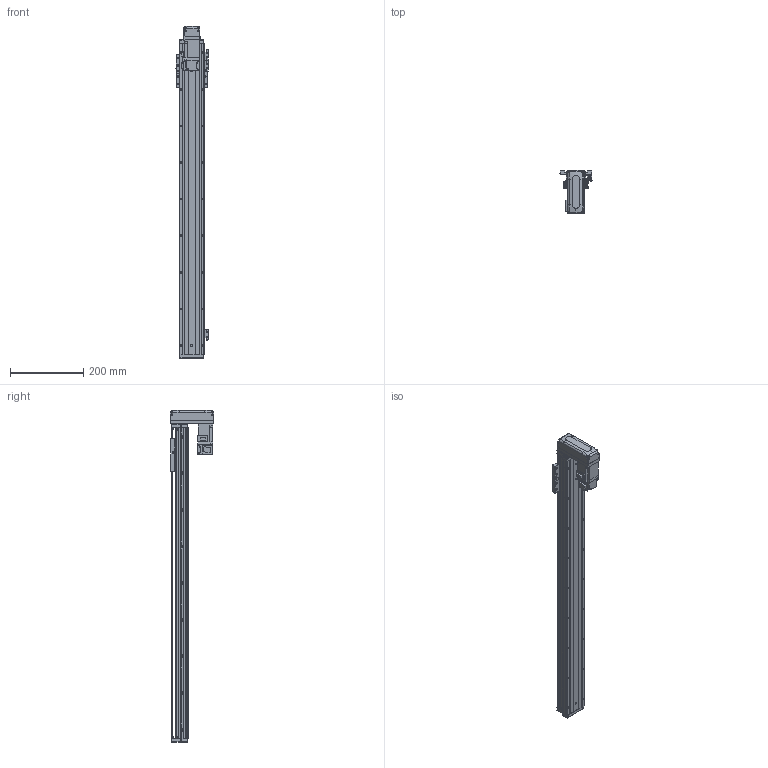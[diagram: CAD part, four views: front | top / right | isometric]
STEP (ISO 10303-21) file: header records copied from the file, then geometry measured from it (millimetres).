
FILE_DESCRIPTION (( 'STEP AP203' ), '1' );
FILE_NAME ('KTHAL60-700-BM-M10-C4L.step', '2022-03-19T08:42:05', ( '微软用户' ), ( '微软中国' ), 'SwSTEP 2.0', 'SolidWorks 2020', '' );
FILE_SCHEMA (( 'CONFIG_CONTROL_DESIGN' ));
Length unit declared in the file: millimetre
Products named in the file (18): GBT 70.3-M3℅6; CTHA60-016; EE_SX911P_R; HG-KR13（三菱）; KTHA60-001_850; CTHA60-017; CTHA60-015-2_CTHA60-015-2; KTHLA60-002; CTHA60-021; CTHA60-033; KTHA60-004; GBT 70.1-M4×16; GBT 70.1-M3×15; KTHA60-005; GBT77-2000M3-3; KTHAL60-700-BM-M10-C4L; GB¨uT 70.2-M3¡Á5_M3¡Á6; GBT 70.1-M3℅6
Assembly tree (51 placements, depth 2):
  KTHAL60-700-BM-M10-C4L
    KTHA60-001_850
    KTHLA60-002
    KTHA60-004
    KTHA60-005
    GB¨uT 70.2-M3¡Á5_M3¡Á6  x5
    GBT 70.3-M3℅6  x4
    EE_SX911P_R  x3
    CTHA60-017  x3
    CTHA60-021  x2
    GBT 70.1-M4×16  x10
    GBT77-2000M3-3  x6
    GBT 70.1-M3℅6  x6
    CTHA60-016
    HG-KR13（三菱）
    CTHA60-015-2_CTHA60-015-2
    CTHA60-033
    GBT 70.1-M3×15  x4
Bounding box: 87.82 x 120 x 907 mm (x, y, z)
Volume: 1862319.8 mm3; surface area: 460348.7 mm2
Topology: 54 solids, 54 shells, 2335 faces, 5555 edges, 3413 vertices
Faces by surface type: plane 1336, cylinder 571, cone 290, torus 98, bspline 26, sphere 14
Entity records: 41285 total; most frequent: CARTESIAN_POINT 7784, DIRECTION 6463, ORIENTED_EDGE 6254, EDGE_CURVE 3127, AXIS2_PLACEMENT_3D 2159, LINE 2145, VECTOR 2145, VERTEX_POINT 1962
